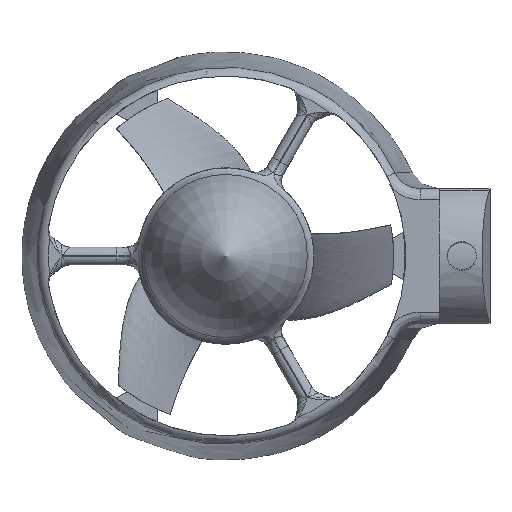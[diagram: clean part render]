
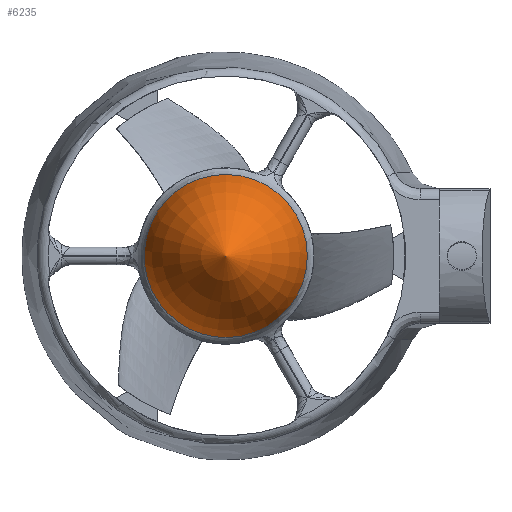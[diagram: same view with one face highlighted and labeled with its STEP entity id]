
A CAD part, front view. The second image highlights one B-rep face of the part: STEP entity #6235.
In plain terms, the highlighted toroidal (fillet/blend) face has major radius 20 mm and minor radius 35.5 mm.
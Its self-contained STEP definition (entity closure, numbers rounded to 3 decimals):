
#1359 = AXIS2_PLACEMENT_3D ( 'NONE', #1701, #9892, #11273 ) ;
#1701 = CARTESIAN_POINT ( 'NONE',  ( -33.963, 7.045, 76.157 ) ) ;
#2547 = CARTESIAN_POINT ( 'NONE',  ( -33.963, -1.282, 76.157 ) ) ;
#6027 = CARTESIAN_POINT ( 'NONE',  ( -33.963, -1.282, 90.666 ) ) ;
#6235 = ADVANCED_FACE ( 'NONE', ( #12653 ), #12526, .T. ) ;
#7972 = AXIS2_PLACEMENT_3D ( 'NONE', #2547, #8246, #8150 ) ;
#8104 = EDGE_CURVE ( 'NONE', #11259, #11259, #15875, .T. ) ;
#8150 = DIRECTION ( 'NONE',  ( 0., 0., 1. ) ) ;
#8246 = DIRECTION ( 'NONE',  ( 0., -1., 0. ) ) ;
#9892 = DIRECTION ( 'NONE',  ( 0., -1., 0. ) ) ;
#11259 = VERTEX_POINT ( 'NONE', #6027 ) ;
#11273 = DIRECTION ( 'NONE',  ( 0., 0., -1. ) ) ;
#12526 = TOROIDAL_SURFACE ( 'NONE', #1359, -20., 35.5 ) ;
#12653 = FACE_OUTER_BOUND ( 'NONE', #14586, .T. ) ;
#14586 = EDGE_LOOP ( 'NONE', ( #17620 ) ) ;
#15875 = CIRCLE ( 'NONE', #7972, 14.51 ) ;
#17620 = ORIENTED_EDGE ( 'NONE', *, *, #8104, .T. ) ;
